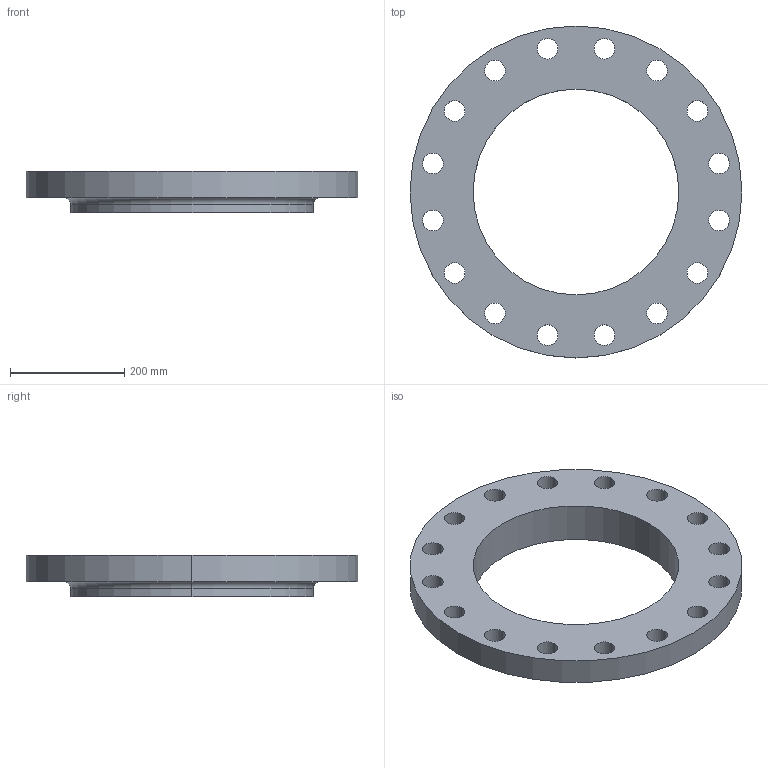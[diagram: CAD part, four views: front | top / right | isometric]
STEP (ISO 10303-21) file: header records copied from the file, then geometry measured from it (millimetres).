
FILE_DESCRIPTION (( 'STEP AP214' ), '1' );
FILE_NAME ('PN40 DN350 Type 12 - Type A Face.STEP', '2019-01-05T21:52:00', ( '' ), ( '' ), 'SwSTEP 2.0', 'SolidWorks 2019', '' );
FILE_SCHEMA (( 'AUTOMOTIVE_DESIGN' ));
Length unit declared in the file: millimetre
Products named in the file (1): PN40 DN350 Type 12 - Type A Face
Bounding box: 580 x 580 x 72 mm (x, y, z)
Volume: 7808817.8 mm3; surface area: 569044.5 mm2
Topology: 1 solids, 1 shells, 43 faces, 118 edges, 78 vertices
Faces by surface type: cylinder 38, plane 3, torus 2
Entity records: 1518 total; most frequent: DIRECTION 286, CARTESIAN_POINT 240, ORIENTED_EDGE 236, AXIS2_PLACEMENT_3D 124, EDGE_CURVE 118, CIRCLE 80, EDGE_LOOP 78, VERTEX_POINT 78
